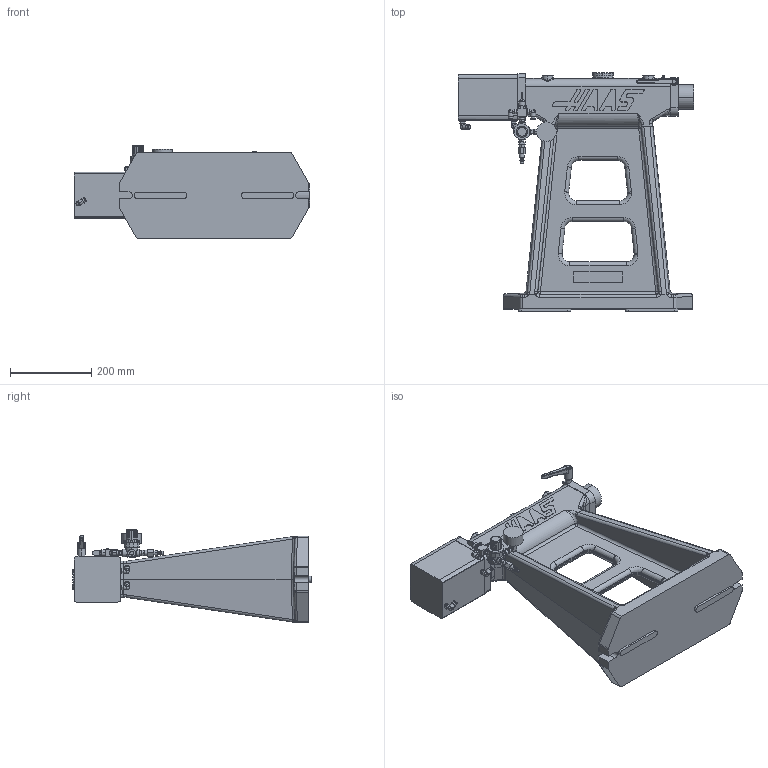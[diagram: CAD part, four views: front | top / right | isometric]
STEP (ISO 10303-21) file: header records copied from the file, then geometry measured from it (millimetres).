
FILE_DESCRIPTION (( 'STEP AP214' ), '1' );
FILE_NAME ('HPTS205_STEP_2020-03.STEP', '2020-04-01T22:38:06', ( '' ), ( '' ), 'SwSTEP 2.0', 'SolidWorks 2019', '' );
FILE_SCHEMA (( 'AUTOMOTIVE_DESIGN' ));
Length unit declared in the file: inch
Products named in the file (1): HPTS205_STEP_2020-03
Bounding box: 579.16 x 586.46 x 228.05 mm (x, y, z)
Volume: 14522182.9 mm3; surface area: 933918 mm2
Topology: 2 solids, 2 shells, 1134 faces, 2896 edges, 1844 vertices
Faces by surface type: plane 547, cylinder 403, bspline 92, cone 42, torus 30, sphere 20
Entity records: 45173 total; most frequent: CARTESIAN_POINT 13193, ORIENTED_EDGE 5760, DIRECTION 5549, EDGE_CURVE 2880, AXIS2_PLACEMENT_3D 1966, VERTEX_POINT 1840, LINE 1617, VECTOR 1617
